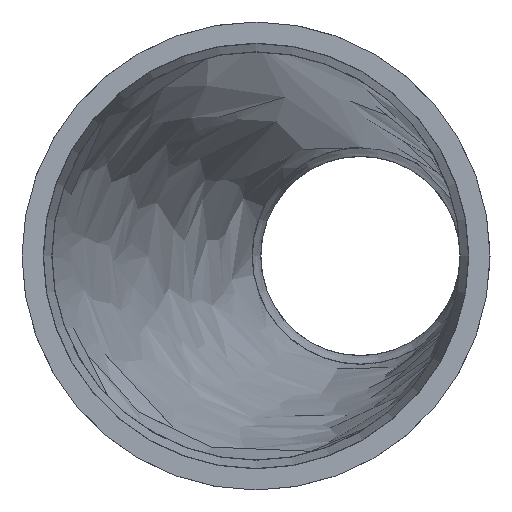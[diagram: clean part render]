
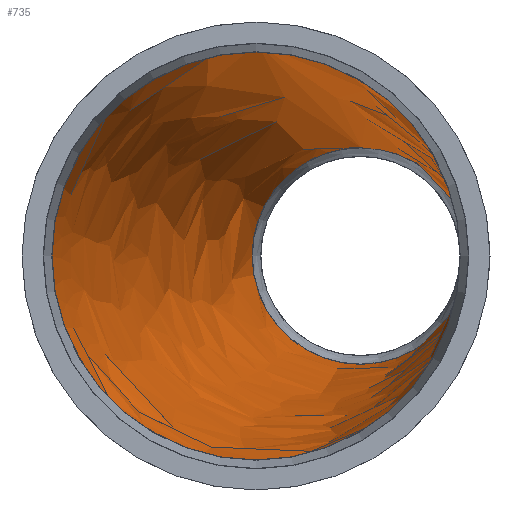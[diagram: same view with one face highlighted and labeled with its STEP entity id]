
A CAD part, left-side view. The second image highlights one B-rep face of the part: STEP entity #735.
In plain terms, the highlighted free-form (B-spline) face has degree [1, 2] with [2, 9] control points.
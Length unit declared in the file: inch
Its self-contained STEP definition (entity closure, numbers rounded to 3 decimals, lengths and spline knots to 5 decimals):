
#57=B_SPLINE_CURVE_WITH_KNOTS('',1,(#1355,#1356),.UNSPECIFIED.,.F.,.F.,
(2,2),(0.00054,6.04015),.UNSPECIFIED.);
#59=(
BOUNDED_SURFACE()
B_SPLINE_SURFACE(1,2,((#1337,#1338,#1339,#1340,#1341,#1342,#1343,#1344,
#1345),(#1346,#1347,#1348,#1349,#1350,#1351,#1352,#1353,#1354)),
 .UNSPECIFIED.,.F.,.T.,.F.)
B_SPLINE_SURFACE_WITH_KNOTS((2,2),(3,2,2,2,3),(-0.08596,6.08125),
(-3.14159,-1.5708,0.,1.5708,3.14159),
 .UNSPECIFIED.)
GEOMETRIC_REPRESENTATION_ITEM()
RATIONAL_B_SPLINE_SURFACE(((1.,0.707,1.,0.707,1.,
0.707,1.,0.707,1.),(1.,0.707,1.,0.707,
1.,0.707,1.,0.707,1.)))
REPRESENTATION_ITEM('')
SURFACE()
);
#127=FACE_OUTER_BOUND('',#159,.T.);
#159=EDGE_LOOP('',(#600,#601,#602,#603,#604,#605,#606));
#209=CIRCLE('',#808,1.08);
#210=CIRCLE('',#809,1.08);
#221=CIRCLE('',#823,0.55);
#222=CIRCLE('',#824,0.55);
#223=CIRCLE('',#825,0.55);
#295=VERTEX_POINT('',#1256);
#296=VERTEX_POINT('',#1257);
#306=VERTEX_POINT('',#1284);
#307=VERTEX_POINT('',#1285);
#308=VERTEX_POINT('',#1287);
#385=EDGE_CURVE('',#295,#296,#209,.T.);
#386=EDGE_CURVE('',#296,#295,#210,.T.);
#399=EDGE_CURVE('',#306,#307,#221,.T.);
#400=EDGE_CURVE('',#307,#308,#222,.T.);
#402=EDGE_CURVE('',#308,#306,#223,.T.);
#426=EDGE_CURVE('',#296,#307,#57,.T.);
#600=ORIENTED_EDGE('',*,*,#385,.F.);
#601=ORIENTED_EDGE('',*,*,#386,.F.);
#602=ORIENTED_EDGE('',*,*,#426,.T.);
#603=ORIENTED_EDGE('',*,*,#399,.F.);
#604=ORIENTED_EDGE('',*,*,#402,.F.);
#605=ORIENTED_EDGE('',*,*,#400,.F.);
#606=ORIENTED_EDGE('',*,*,#426,.F.);
#735=ADVANCED_FACE('',(#127),#59,.T.);
#808=AXIS2_PLACEMENT_3D('',#1258,#986,#987);
#809=AXIS2_PLACEMENT_3D('',#1259,#988,#989);
#823=AXIS2_PLACEMENT_3D('',#1286,#1018,#1019);
#824=AXIS2_PLACEMENT_3D('',#1288,#1020,#1021);
#825=AXIS2_PLACEMENT_3D('',#1290,#1023,#1024);
#986=DIRECTION('center_axis',(1.,0.,0.));
#987=DIRECTION('ref_axis',(0.,1.,0.));
#988=DIRECTION('center_axis',(1.,0.,0.));
#989=DIRECTION('ref_axis',(0.,1.,0.));
#1018=DIRECTION('center_axis',(-1.,0.,0.));
#1019=DIRECTION('ref_axis',(0.,-1.,0.));
#1020=DIRECTION('center_axis',(-1.,0.,0.));
#1021=DIRECTION('ref_axis',(0.,-1.,0.));
#1023=DIRECTION('center_axis',(-1.,0.,0.));
#1024=DIRECTION('ref_axis',(0.,-1.,0.));
#1256=CARTESIAN_POINT('',(1.26,-1.08,0.));
#1257=CARTESIAN_POINT('',(1.26,-0.00713,1.07998));
#1258=CARTESIAN_POINT('Origin',(1.26,0.,0.));
#1259=CARTESIAN_POINT('Origin',(1.26,0.,0.));
#1284=CARTESIAN_POINT('',(7.74,-1.08,0.));
#1285=CARTESIAN_POINT('',(7.74,-0.53363,0.54999));
#1286=CARTESIAN_POINT('Origin',(7.74,-0.53,0.));
#1287=CARTESIAN_POINT('',(7.74,0.02,0.));
#1288=CARTESIAN_POINT('Origin',(7.74,-0.53,0.));
#1290=CARTESIAN_POINT('Origin',(7.74,-0.53,0.));
#1337=CARTESIAN_POINT('Ctrl Pts',(1.16719,0.00041,
1.08757));
#1338=CARTESIAN_POINT('Ctrl Pts',(1.07941,-1.08,1.08757));
#1339=CARTESIAN_POINT('Ctrl Pts',(1.07941,-1.08,0.));
#1340=CARTESIAN_POINT('Ctrl Pts',(1.07941,-1.08,-1.08757));
#1341=CARTESIAN_POINT('Ctrl Pts',(1.16719,0.00041,
-1.08757));
#1342=CARTESIAN_POINT('Ctrl Pts',(1.25498,1.08082,-1.08757));
#1343=CARTESIAN_POINT('Ctrl Pts',(1.25498,1.08082,0.));
#1344=CARTESIAN_POINT('Ctrl Pts',(1.25498,1.08082,1.08757));
#1345=CARTESIAN_POINT('Ctrl Pts',(1.16719,0.00041,
1.08757));
#1346=CARTESIAN_POINT('Ctrl Pts',(7.7841,-0.53721,0.54638));
#1347=CARTESIAN_POINT('Ctrl Pts',(7.74,-1.08,0.54638));
#1348=CARTESIAN_POINT('Ctrl Pts',(7.74,-1.08,0.));
#1349=CARTESIAN_POINT('Ctrl Pts',(7.74,-1.08,-0.54638));
#1350=CARTESIAN_POINT('Ctrl Pts',(7.7841,-0.53721,-0.54638));
#1351=CARTESIAN_POINT('Ctrl Pts',(7.8282,0.00557,-0.54638));
#1352=CARTESIAN_POINT('Ctrl Pts',(7.8282,0.00557,0.));
#1353=CARTESIAN_POINT('Ctrl Pts',(7.8282,0.00557,0.54638));
#1354=CARTESIAN_POINT('Ctrl Pts',(7.7841,-0.53721,0.54638));
#1355=CARTESIAN_POINT('Ctrl Pts',(1.26,-0.00713,1.07998));
#1356=CARTESIAN_POINT('Ctrl Pts',(7.74,-0.53363,0.54999));
